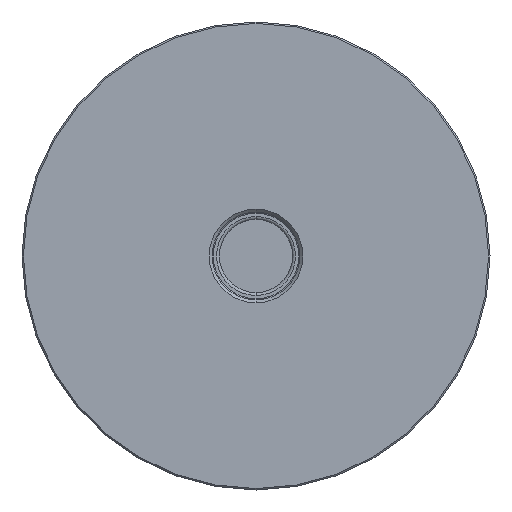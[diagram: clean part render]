
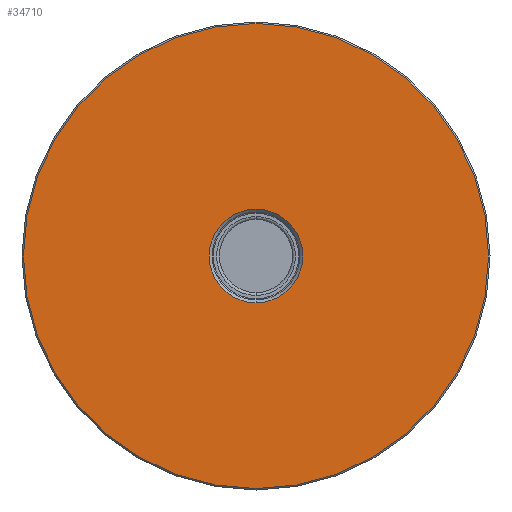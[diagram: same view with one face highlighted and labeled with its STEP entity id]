
A CAD part, front view. The second image highlights one B-rep face of the part: STEP entity #34710.
In plain terms, the highlighted planar face has unit normal (0, -1, 0).
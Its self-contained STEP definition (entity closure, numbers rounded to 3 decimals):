
#714 = CARTESIAN_POINT ( 'NONE',  ( -38.129, -76.563, 194.351 ) ) ;
#2017 = DIRECTION ( 'NONE',  ( 1., 0., 0. ) ) ;
#2223 = CIRCLE ( 'NONE', #46270, 79.5 ) ;
#7710 = ORIENTED_EDGE ( 'NONE', *, *, #47543, .T. ) ;
#9127 = CARTESIAN_POINT ( 'NONE',  ( -38.129, -76.563, 194.351 ) ) ;
#9173 = AXIS2_PLACEMENT_3D ( 'NONE', #714, #30574, #15465 ) ;
#10572 = ORIENTED_EDGE ( 'NONE', *, *, #63381, .T. ) ;
#13953 = EDGE_CURVE ( 'NONE', #35514, #34273, #16561, .T. ) ;
#14563 = VERTEX_POINT ( 'NONE', #26057 ) ;
#14962 = DIRECTION ( 'NONE',  ( 0., 0., 1. ) ) ;
#15465 = DIRECTION ( 'NONE',  ( 0., 0., 1. ) ) ;
#16561 = CIRCLE ( 'NONE', #61655, 16. ) ;
#18168 = EDGE_LOOP ( 'NONE', ( #10572, #7710 ) ) ;
#18323 = EDGE_LOOP ( 'NONE', ( #62464, #28653 ) ) ;
#24008 = DIRECTION ( 'NONE',  ( 0., -1., 0. ) ) ;
#25988 = FACE_OUTER_BOUND ( 'NONE', #18168, .T. ) ;
#26006 = CIRCLE ( 'NONE', #62708, 79.5 ) ;
#26057 = CARTESIAN_POINT ( 'NONE',  ( -38.129, -76.563, 273.851 ) ) ;
#28653 = ORIENTED_EDGE ( 'NONE', *, *, #41783, .T. ) ;
#28902 = CARTESIAN_POINT ( 'NONE',  ( -38.129, -76.563, 194.351 ) ) ;
#30574 = DIRECTION ( 'NONE',  ( 0., 1., 0. ) ) ;
#34273 = VERTEX_POINT ( 'NONE', #50225 ) ;
#34559 = VERTEX_POINT ( 'NONE', #44405 ) ;
#34710 = ADVANCED_FACE ( 'NONE', ( #46675, #25988 ), #45687, .F. ) ;
#35514 = VERTEX_POINT ( 'NONE', #60637 ) ;
#38356 = CARTESIAN_POINT ( 'NONE',  ( -38.129, -76.563, 194.351 ) ) ;
#41783 = EDGE_CURVE ( 'NONE', #34273, #35514, #50063, .T. ) ;
#42998 = AXIS2_PLACEMENT_3D ( 'NONE', #56512, #50979, #2017 ) ;
#43913 = DIRECTION ( 'NONE',  ( 0., 0., -1. ) ) ;
#44405 = CARTESIAN_POINT ( 'NONE',  ( -38.129, -76.563, 114.851 ) ) ;
#45687 = PLANE ( 'NONE',  #42998 ) ;
#46270 = AXIS2_PLACEMENT_3D ( 'NONE', #9127, #48889, #43913 ) ;
#46675 = FACE_BOUND ( 'NONE', #18323, .T. ) ;
#47543 = EDGE_CURVE ( 'NONE', #34559, #14563, #2223, .T. ) ;
#48889 = DIRECTION ( 'NONE',  ( 0., -1., 0. ) ) ;
#49523 = DIRECTION ( 'NONE',  ( 0., 1., 0. ) ) ;
#50063 = CIRCLE ( 'NONE', #9173, 16. ) ;
#50225 = CARTESIAN_POINT ( 'NONE',  ( -38.129, -76.563, 210.351 ) ) ;
#50979 = DIRECTION ( 'NONE',  ( 0., 1., 0. ) ) ;
#56512 = CARTESIAN_POINT ( 'NONE',  ( -53.129, -76.563, 194.351 ) ) ;
#58477 = DIRECTION ( 'NONE',  ( 0., 0., -1. ) ) ;
#60637 = CARTESIAN_POINT ( 'NONE',  ( -38.129, -76.563, 178.351 ) ) ;
#61655 = AXIS2_PLACEMENT_3D ( 'NONE', #38356, #49523, #14962 ) ;
#62464 = ORIENTED_EDGE ( 'NONE', *, *, #13953, .T. ) ;
#62708 = AXIS2_PLACEMENT_3D ( 'NONE', #28902, #24008, #58477 ) ;
#63381 = EDGE_CURVE ( 'NONE', #14563, #34559, #26006, .T. ) ;
